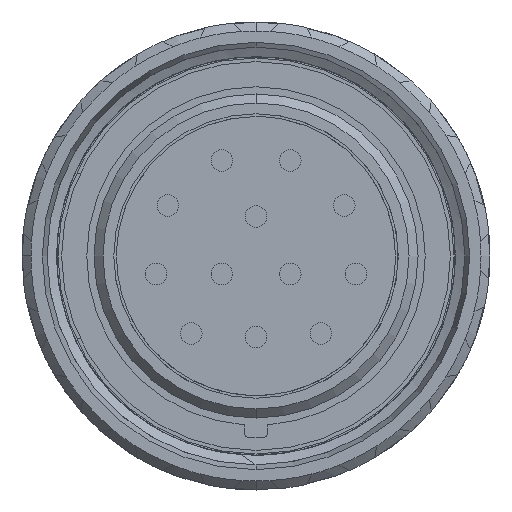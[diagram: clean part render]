
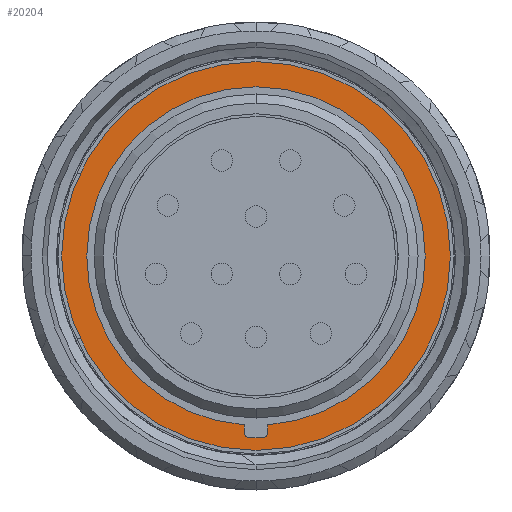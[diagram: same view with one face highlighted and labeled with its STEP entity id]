
A CAD part, left-side view. The second image highlights one B-rep face of the part: STEP entity #20204.
In plain terms, the highlighted planar face has unit normal (-1, 0, 0).
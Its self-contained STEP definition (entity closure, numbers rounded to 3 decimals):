
#66 = VERTEX_POINT ( 'NONE', #11342 ) ;
#221 = CARTESIAN_POINT ( 'NONE',  ( -3.8, 9.4, 0. ) ) ;
#775 = EDGE_CURVE ( 'NONE', #6175, #10168, #9444, .T. ) ;
#1175 = CARTESIAN_POINT ( 'NONE',  ( -3.8, 0., 0. ) ) ;
#1636 = FACE_BOUND ( 'NONE', #13259, .T. ) ;
#1725 = CARTESIAN_POINT ( 'NONE',  ( -3.8, -0.65, -9.377 ) ) ;
#1823 = CARTESIAN_POINT ( 'NONE',  ( -3.8, 10.8, 0. ) ) ;
#3840 = CIRCLE ( 'NONE', #35516, 10.8 ) ;
#4069 = CARTESIAN_POINT ( 'NONE',  ( -3.8, 0.65, -9.377 ) ) ;
#4171 = CARTESIAN_POINT ( 'NONE',  ( -3.8, -10.8, 0. ) ) ;
#4751 = DIRECTION ( 'NONE',  ( 1., 0., 0. ) ) ;
#5225 = VERTEX_POINT ( 'NONE', #8130 ) ;
#6175 = VERTEX_POINT ( 'NONE', #33039 ) ;
#6963 = DIRECTION ( 'NONE',  ( 0., 1., 0. ) ) ;
#8086 = AXIS2_PLACEMENT_3D ( 'NONE', #1175, #35253, #6963 ) ;
#8130 = CARTESIAN_POINT ( 'NONE',  ( -3.8, 0.65, -9.794 ) ) ;
#8612 = CARTESIAN_POINT ( 'NONE',  ( -3.8, -0.35, -9.794 ) ) ;
#9444 = CIRCLE ( 'NONE', #14093, 0.3 ) ;
#10168 = VERTEX_POINT ( 'NONE', #23817 ) ;
#10255 = DIRECTION ( 'NONE',  ( 1., 0., 0. ) ) ;
#10702 = DIRECTION ( 'NONE',  ( -1., 0., 0. ) ) ;
#10958 = VERTEX_POINT ( 'NONE', #12730 ) ;
#11169 = AXIS2_PLACEMENT_3D ( 'NONE', #32549, #10255, #35652 ) ;
#11342 = CARTESIAN_POINT ( 'NONE',  ( -3.8, 0.361, -10.094 ) ) ;
#11440 = EDGE_CURVE ( 'NONE', #12340, #32797, #3840, .T. ) ;
#12340 = VERTEX_POINT ( 'NONE', #1823 ) ;
#12437 = ORIENTED_EDGE ( 'NONE', *, *, #775, .T. ) ;
#12720 = DIRECTION ( 'NONE',  ( 1., 0., 0. ) ) ;
#12730 = CARTESIAN_POINT ( 'NONE',  ( -3.8, -0.65, -9.377 ) ) ;
#13143 = EDGE_CURVE ( 'NONE', #6175, #10958, #19778, .T. ) ;
#13259 = EDGE_LOOP ( 'NONE', ( #21288, #35949, #28341, #40305, #26293, #37399, #25305, #12437 ) ) ;
#13821 = CARTESIAN_POINT ( 'NONE',  ( -3.8, 0., 0. ) ) ;
#14076 = AXIS2_PLACEMENT_3D ( 'NONE', #22317, #22109, #34293 ) ;
#14093 = AXIS2_PLACEMENT_3D ( 'NONE', #8612, #12720, #25315 ) ;
#14265 = PLANE ( 'NONE',  #17525 ) ;
#14382 = DIRECTION ( 'NONE',  ( -1., 0., 0. ) ) ;
#14399 = DIRECTION ( 'NONE',  ( 0., -1., 0. ) ) ;
#15053 = CIRCLE ( 'NONE', #25600, 10.1 ) ;
#15064 = EDGE_CURVE ( 'NONE', #32797, #19521, #25942, .T. ) ;
#15746 = EDGE_CURVE ( 'NONE', #30039, #35333, #24638, .T. ) ;
#15988 = VERTEX_POINT ( 'NONE', #27662 ) ;
#17387 = ORIENTED_EDGE ( 'NONE', *, *, #15064, .T. ) ;
#17525 = AXIS2_PLACEMENT_3D ( 'NONE', #30154, #4751, #20659 ) ;
#19123 = EDGE_CURVE ( 'NONE', #10958, #30039, #36046, .T. ) ;
#19521 = VERTEX_POINT ( 'NONE', #4171 ) ;
#19778 = B_SPLINE_CURVE_WITH_KNOTS ( 'NONE', 1,
 ( #20740, #1725 ),
 .UNSPECIFIED., .F., .F.,
 ( 2, 2 ),
 ( 0., 0. ),
 .UNSPECIFIED. ) ;
#20204 = ADVANCED_FACE ( 'NONE', ( #1636, #33048 ), #14265, .F. ) ;
#20659 = DIRECTION ( 'NONE',  ( 0., -1., 0. ) ) ;
#20686 = CARTESIAN_POINT ( 'NONE',  ( -3.8, 0., 0. ) ) ;
#20709 = AXIS2_PLACEMENT_3D ( 'NONE', #24303, #20795, #14399 ) ;
#20740 = CARTESIAN_POINT ( 'NONE',  ( -3.8, -0.65, -9.794 ) ) ;
#20795 = DIRECTION ( 'NONE',  ( -1., 0., 0. ) ) ;
#20885 = AXIS2_PLACEMENT_3D ( 'NONE', #25413, #29488, #37795 ) ;
#21288 = ORIENTED_EDGE ( 'NONE', *, *, #35495, .T. ) ;
#21751 = DIRECTION ( 'NONE',  ( 1., 0., 0. ) ) ;
#22109 = DIRECTION ( 'NONE',  ( -1., 0., 0. ) ) ;
#22317 = CARTESIAN_POINT ( 'NONE',  ( -3.8, 0., 0. ) ) ;
#22963 = EDGE_LOOP ( 'NONE', ( #36586, #34178, #17387 ) ) ;
#23817 = CARTESIAN_POINT ( 'NONE',  ( -3.8, -0.361, -10.094 ) ) ;
#23908 = EDGE_CURVE ( 'NONE', #35333, #15988, #25238, .T. ) ;
#24303 = CARTESIAN_POINT ( 'NONE',  ( -3.8, 0., 0. ) ) ;
#24628 = EDGE_CURVE ( 'NONE', #15988, #5225, #33255, .T. ) ;
#24638 = CIRCLE ( 'NONE', #20709, 9.4 ) ;
#24831 = DIRECTION ( 'NONE',  ( 0., 0., -1. ) ) ;
#25238 = CIRCLE ( 'NONE', #8086, 9.4 ) ;
#25305 = ORIENTED_EDGE ( 'NONE', *, *, #13143, .F. ) ;
#25315 = DIRECTION ( 'NONE',  ( 0., 0., -1. ) ) ;
#25413 = CARTESIAN_POINT ( 'NONE',  ( -3.8, 0., 0. ) ) ;
#25600 = AXIS2_PLACEMENT_3D ( 'NONE', #20686, #21751, #24831 ) ;
#25664 = EDGE_CURVE ( 'NONE', #19521, #12340, #29254, .T. ) ;
#25890 = CARTESIAN_POINT ( 'NONE',  ( -3.8, 0., -10.8 ) ) ;
#25942 = CIRCLE ( 'NONE', #14076, 10.8 ) ;
#26008 = AXIS2_PLACEMENT_3D ( 'NONE', #13821, #10702, #28882 ) ;
#26293 = ORIENTED_EDGE ( 'NONE', *, *, #15746, .F. ) ;
#27662 = CARTESIAN_POINT ( 'NONE',  ( -3.8, 0.65, -9.377 ) ) ;
#28341 = ORIENTED_EDGE ( 'NONE', *, *, #24628, .F. ) ;
#28882 = DIRECTION ( 'NONE',  ( 0., 0., -1. ) ) ;
#29254 = CIRCLE ( 'NONE', #26008, 10.8 ) ;
#29488 = DIRECTION ( 'NONE',  ( -1., 0., 0. ) ) ;
#30039 = VERTEX_POINT ( 'NONE', #38837 ) ;
#30154 = CARTESIAN_POINT ( 'NONE',  ( -3.8, 11.232, 11.232 ) ) ;
#32549 = CARTESIAN_POINT ( 'NONE',  ( -3.8, 0.35, -9.794 ) ) ;
#32797 = VERTEX_POINT ( 'NONE', #25890 ) ;
#33039 = CARTESIAN_POINT ( 'NONE',  ( -3.8, -0.65, -9.794 ) ) ;
#33048 = FACE_OUTER_BOUND ( 'NONE', #22963, .T. ) ;
#33152 = DIRECTION ( 'NONE',  ( 0., 0., -1. ) ) ;
#33255 = B_SPLINE_CURVE_WITH_KNOTS ( 'NONE', 1,
 ( #4069, #35677 ),
 .UNSPECIFIED., .F., .F.,
 ( 2, 2 ),
 ( 0., 0. ),
 .UNSPECIFIED. ) ;
#33602 = CIRCLE ( 'NONE', #11169, 0.3 ) ;
#34178 = ORIENTED_EDGE ( 'NONE', *, *, #11440, .T. ) ;
#34293 = DIRECTION ( 'NONE',  ( 0., 0., -1. ) ) ;
#35253 = DIRECTION ( 'NONE',  ( -1., 0., 0. ) ) ;
#35333 = VERTEX_POINT ( 'NONE', #221 ) ;
#35495 = EDGE_CURVE ( 'NONE', #10168, #66, #15053, .T. ) ;
#35516 = AXIS2_PLACEMENT_3D ( 'NONE', #36263, #14382, #33152 ) ;
#35652 = DIRECTION ( 'NONE',  ( 0., 0., -1. ) ) ;
#35677 = CARTESIAN_POINT ( 'NONE',  ( -3.8, 0.65, -9.794 ) ) ;
#35949 = ORIENTED_EDGE ( 'NONE', *, *, #40093, .T. ) ;
#36046 = CIRCLE ( 'NONE', #20885, 9.4 ) ;
#36263 = CARTESIAN_POINT ( 'NONE',  ( -3.8, 0., 0. ) ) ;
#36586 = ORIENTED_EDGE ( 'NONE', *, *, #25664, .T. ) ;
#37399 = ORIENTED_EDGE ( 'NONE', *, *, #19123, .F. ) ;
#37795 = DIRECTION ( 'NONE',  ( 0., -0.069, -0.998 ) ) ;
#38837 = CARTESIAN_POINT ( 'NONE',  ( -3.8, -9.4, 0. ) ) ;
#40093 = EDGE_CURVE ( 'NONE', #66, #5225, #33602, .T. ) ;
#40305 = ORIENTED_EDGE ( 'NONE', *, *, #23908, .F. ) ;
